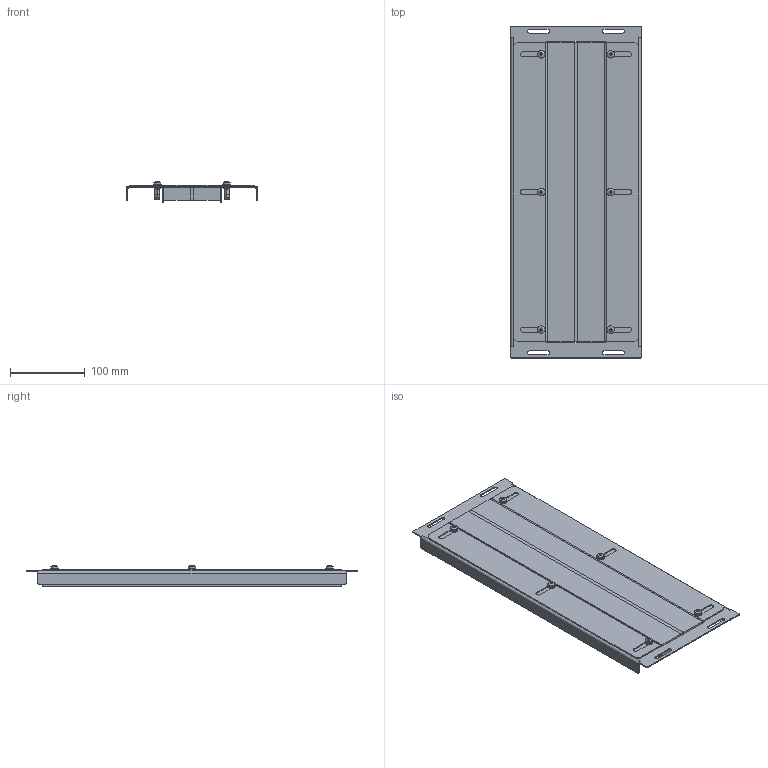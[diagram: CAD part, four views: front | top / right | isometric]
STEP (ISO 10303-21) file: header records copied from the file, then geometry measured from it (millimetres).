
FILE_DESCRIPTION(('STEP AP203'), '1');
FILE_NAME('3015 Ïàíåëü íà äíî ÑÁ', '', ('UNSPECIFIED'), ('UNSPECIFIED'), 'C3D Converter', 'C3D Toolkit', '');
FILE_SCHEMA(('CONFIG_CONTROL_DESIGN'));
Length unit declared in the file: millimetre
Products named in the file (8): 3015.60.Э; 3016.60; 2322.60; 2323.60
Assembly tree (28 placements, depth 3):
  3015.60.Э
    3016.60
    (unnamed)  x6
    (unnamed)  x6
    (unnamed)  x6
    (unnamed)  x6
    2322.60  x2
      2323.60
Bounding box: 175 x 445 x 28.12 mm (x, y, z)
Volume: 815298.5 mm3; surface area: 336793.3 mm2
Topology: 29 solids, 29 shells, 792 faces, 2002 edges, 1304 vertices
Faces by surface type: plane 390, cylinder 198, bspline 180, torus 12, sphere 6, cone 6
Full cylindrical faces by diameter (mm): 4.134 x6, 5 x6, 5.5 x6, 5.8 x6, 8.8 x6, 9.5 x6, 10 x6
Entity records: 12693 total; most frequent: CARTESIAN_POINT 5733, ORIENTED_EDGE 1228, DIRECTION 1224, EDGE_CURVE 614, AXIS2_PLACEMENT_3D 409, LINE 406, VECTOR 406, VERTEX_POINT 400
